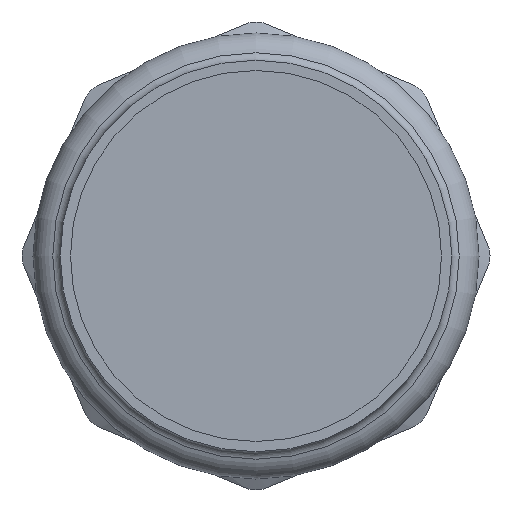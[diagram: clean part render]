
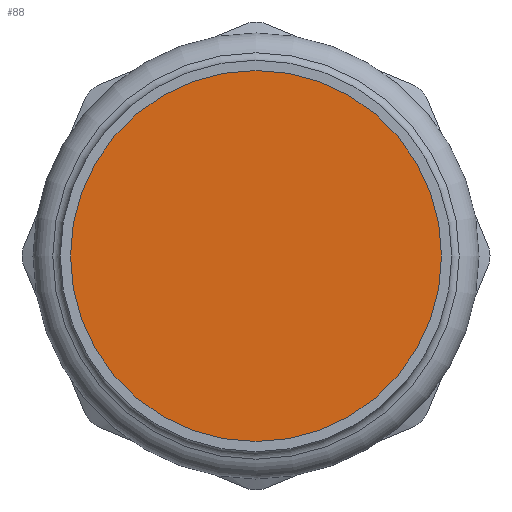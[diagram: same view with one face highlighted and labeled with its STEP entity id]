
A CAD part, front view. The second image highlights one B-rep face of the part: STEP entity #88.
In plain terms, the highlighted planar face has unit normal (0, -1, 0).
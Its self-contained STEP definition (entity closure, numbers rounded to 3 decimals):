
#88=ADVANCED_FACE('',(#370),#372,.T.);
#370=FACE_BOUND('',#371,.T.);
#371=EDGE_LOOP('',(#512));
#372=PLANE('',#373);
#373=AXIS2_PLACEMENT_3D('',#374,#375,#376);
#374=CARTESIAN_POINT('',(0.,11.708,0.));
#375=DIRECTION('',(0.,-1.,0.));
#376=DIRECTION('',(0.,0.,-1.));
#512=ORIENTED_EDGE('',*,*,#580,.T.);
#580=EDGE_CURVE('',#699,#699,#700,.F.);
#699=VERTEX_POINT('',#2254);
#700=CIRCLE('',#2255,27.2);
#2254=CARTESIAN_POINT('',(0.,11.708,27.2));
#2255=AXIS2_PLACEMENT_3D('',#2256,#2257,#2258);
#2256=CARTESIAN_POINT('',(0.,11.708,0.));
#2257=DIRECTION('',(0.,1.,0.));
#2258=DIRECTION('',(0.,0.,1.));
